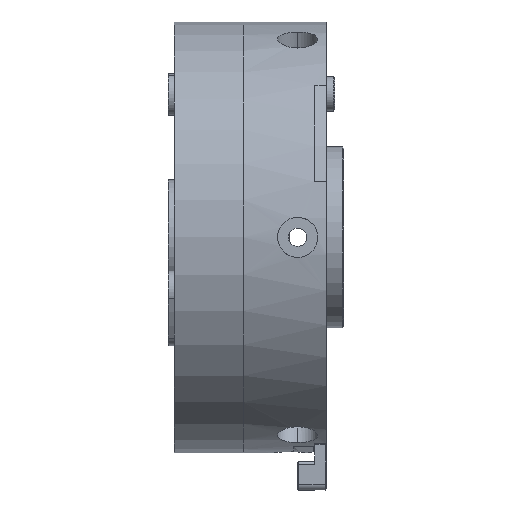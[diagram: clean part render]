
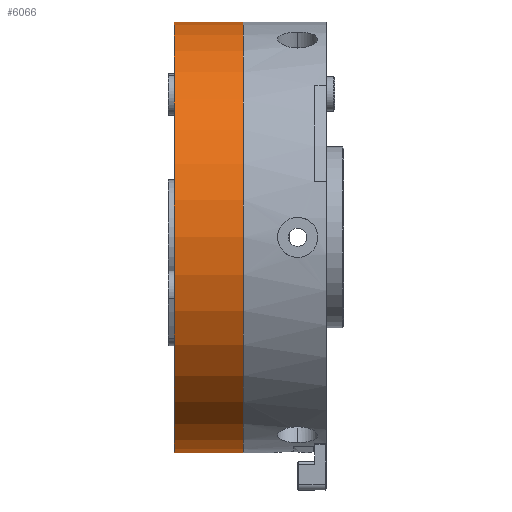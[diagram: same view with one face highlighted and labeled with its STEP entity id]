
A CAD part, left-side view. The second image highlights one B-rep face of the part: STEP entity #6066.
In plain terms, the highlighted cylindrical face has radius 37.5 mm (diameter 75 mm), a partial arc.
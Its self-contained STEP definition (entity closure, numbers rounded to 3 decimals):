
#150 = LINE ( 'NONE', #4329, #7370 ) ;
#418 = DIRECTION ( 'NONE',  ( 0., 1., 0. ) ) ;
#621 = EDGE_LOOP ( 'NONE', ( #6616, #1587, #2076, #3364 ) ) ;
#1447 = CARTESIAN_POINT ( 'NONE',  ( -11.033, 8.944, 45. ) ) ;
#1505 = CIRCLE ( 'NONE', #3444, 37.5 ) ;
#1587 = ORIENTED_EDGE ( 'NONE', *, *, #5840, .F. ) ;
#1618 = EDGE_CURVE ( 'NONE', #5595, #3333, #4815, .T. ) ;
#1620 = CARTESIAN_POINT ( 'NONE',  ( -11.033, 20.944, 120. ) ) ;
#1735 = FACE_OUTER_BOUND ( 'NONE', #621, .T. ) ;
#1862 = AXIS2_PLACEMENT_3D ( 'NONE', #5461, #9073, #9103 ) ;
#2076 = ORIENTED_EDGE ( 'NONE', *, *, #4824, .T. ) ;
#2315 = CARTESIAN_POINT ( 'NONE',  ( -11.033, 8.944, 120. ) ) ;
#2764 = VECTOR ( 'NONE', #5532, 1000. ) ;
#3333 = VERTEX_POINT ( 'NONE', #2315 ) ;
#3364 = ORIENTED_EDGE ( 'NONE', *, *, #1618, .T. ) ;
#3381 = CARTESIAN_POINT ( 'NONE',  ( -11.033, 20.944, 82.5 ) ) ;
#3436 = DIRECTION ( 'NONE',  ( 0., -1., 0. ) ) ;
#3444 = AXIS2_PLACEMENT_3D ( 'NONE', #3381, #418, #6970 ) ;
#4329 = CARTESIAN_POINT ( 'NONE',  ( -11.033, 20.944, 45. ) ) ;
#4771 = LINE ( 'NONE', #6895, #2764 ) ;
#4815 = CIRCLE ( 'NONE', #1862, 37.5 ) ;
#4824 = EDGE_CURVE ( 'NONE', #6402, #5595, #150, .T. ) ;
#4919 = CYLINDRICAL_SURFACE ( 'NONE', #5962, 37.5 ) ;
#5461 = CARTESIAN_POINT ( 'NONE',  ( -11.033, 8.944, 82.5 ) ) ;
#5532 = DIRECTION ( 'NONE',  ( 0., -1., 0. ) ) ;
#5595 = VERTEX_POINT ( 'NONE', #1447 ) ;
#5673 = VERTEX_POINT ( 'NONE', #1620 ) ;
#5675 = CARTESIAN_POINT ( 'NONE',  ( -11.033, 20.944, 82.5 ) ) ;
#5840 = EDGE_CURVE ( 'NONE', #6402, #5673, #1505, .T. ) ;
#5962 = AXIS2_PLACEMENT_3D ( 'NONE', #5675, #3436, #7195 ) ;
#6066 = ADVANCED_FACE ( 'NONE', ( #1735 ), #4919, .T. ) ;
#6158 = CARTESIAN_POINT ( 'NONE',  ( -11.033, 20.944, 45. ) ) ;
#6402 = VERTEX_POINT ( 'NONE', #6158 ) ;
#6616 = ORIENTED_EDGE ( 'NONE', *, *, #8394, .F. ) ;
#6895 = CARTESIAN_POINT ( 'NONE',  ( -11.033, 20.944, 120. ) ) ;
#6970 = DIRECTION ( 'NONE',  ( 0., 0., -1. ) ) ;
#7195 = DIRECTION ( 'NONE',  ( 0., 0., -1. ) ) ;
#7370 = VECTOR ( 'NONE', #7371, 1000. ) ;
#7371 = DIRECTION ( 'NONE',  ( 0., -1., 0. ) ) ;
#8394 = EDGE_CURVE ( 'NONE', #5673, #3333, #4771, .T. ) ;
#9073 = DIRECTION ( 'NONE',  ( 0., 1., 0. ) ) ;
#9103 = DIRECTION ( 'NONE',  ( 0., 0., -1. ) ) ;
